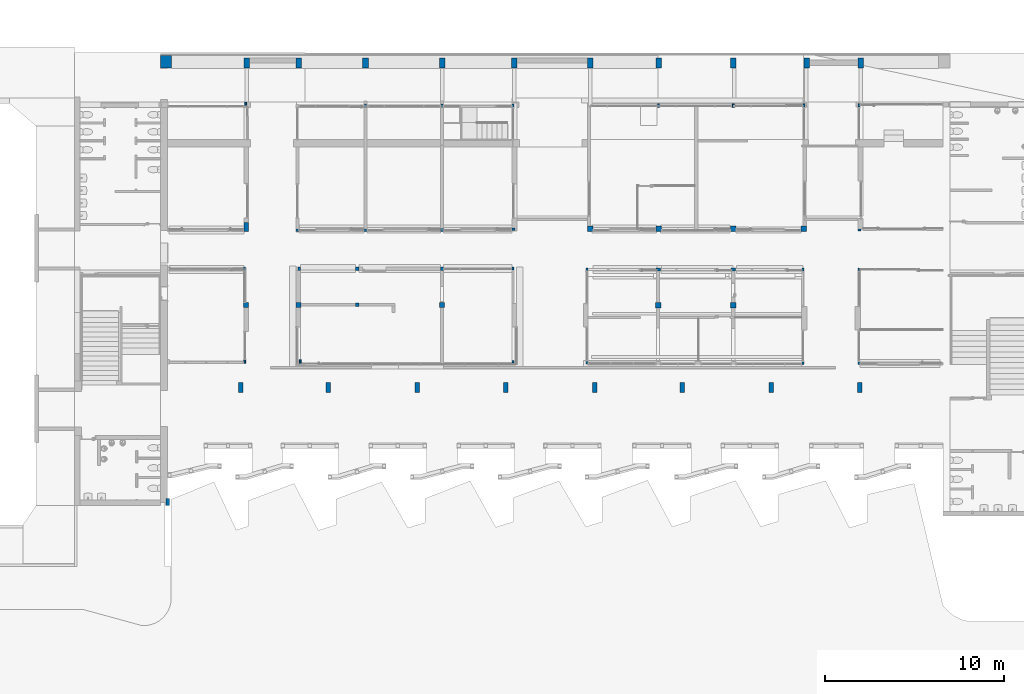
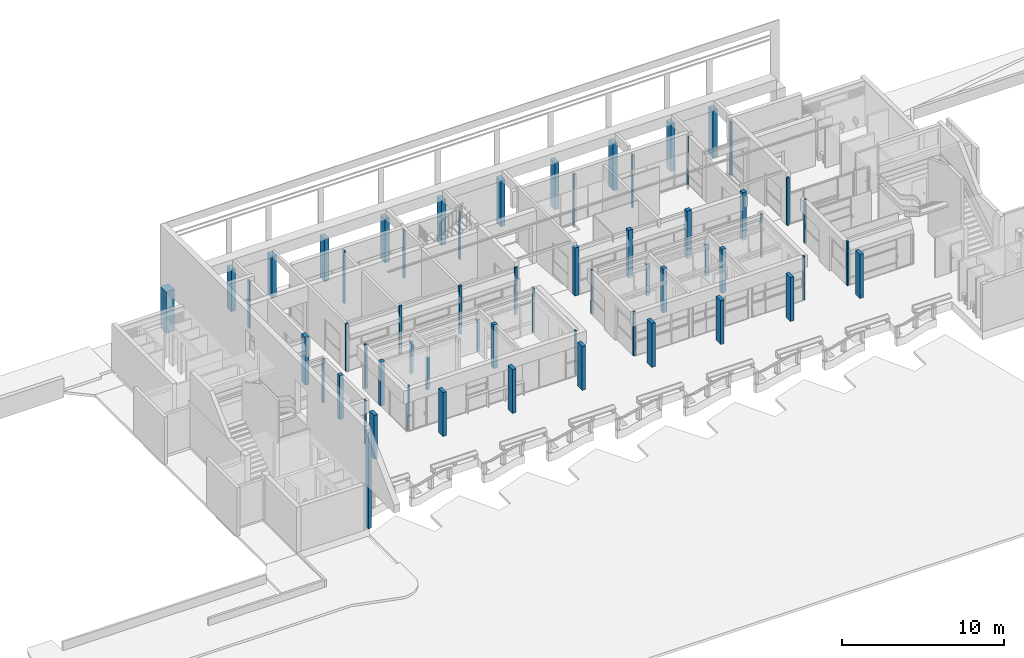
# One storey, part 1 of 117: 60 columns.
"""IFC4 building model written with IfcOpenShell, lengths in metres."""

from ifc_helpers import new_model, entity, si_unit, converted_unit, derived_unit, direction, frame, origin, place, context, subcontext, project, spatial, indexed_curve, outline, extrude, source, transform, mapped, material, type_object, type_shapes, element, save


model = new_model("IFC4")

# Units and contexts
model_context = context("Model", 3, precision=1e-05, world=origin(), true_north=direction((6.123031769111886e-17, 1.0)))
body_context = subcontext(model_context, "Body", "Model", "MODEL_VIEW")
ifc_project = project(units=[si_unit("LENGTHUNIT", "METRE"), si_unit("AREAUNIT", "SQUARE_METRE"), si_unit("VOLUMEUNIT", "CUBIC_METRE"), converted_unit("PLANEANGLEUNIT", "DEGREE", entity("IfcRatioMeasure", 0.017453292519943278), si_unit("PLANEANGLEUNIT", "RADIAN"), dimensions=[0, 0, 0, 0, 0, 0, 0]), si_unit("MASSUNIT", "GRAM", prefix="KILO"), derived_unit("MASSDENSITYUNIT", [(si_unit("MASSUNIT", "GRAM", prefix="KILO"), 1), (si_unit("LENGTHUNIT", "METRE"), -3)]), derived_unit("MOMENTOFINERTIAUNIT", [(si_unit("LENGTHUNIT", "METRE"), 4)]), si_unit("TIMEUNIT", "SECOND"), si_unit("FREQUENCYUNIT", "HERTZ"), si_unit("THERMODYNAMICTEMPERATUREUNIT", "DEGREE_CELSIUS"), derived_unit("THERMALTRANSMITTANCEUNIT", [(si_unit("MASSUNIT", "GRAM", prefix="KILO"), 1), (si_unit("THERMODYNAMICTEMPERATUREUNIT", "KELVIN"), -1), (si_unit("TIMEUNIT", "SECOND"), -3)]), derived_unit("VOLUMETRICFLOWRATEUNIT", [(si_unit("LENGTHUNIT", "METRE"), 3), (si_unit("TIMEUNIT", "SECOND"), -1)]), derived_unit("MASSFLOWRATEUNIT", [(si_unit("MASSUNIT", "GRAM", prefix="KILO"), 1), (si_unit("TIMEUNIT", "SECOND"), -1)]), derived_unit("ROTATIONALFREQUENCYUNIT", [(si_unit("TIMEUNIT", "SECOND"), -1)]), si_unit("ELECTRICCURRENTUNIT", "AMPERE"), si_unit("ELECTRICVOLTAGEUNIT", "VOLT"), si_unit("POWERUNIT", "WATT"), si_unit("FORCEUNIT", "NEWTON", prefix="KILO"), si_unit("ILLUMINANCEUNIT", "LUX"), si_unit("LUMINOUSFLUXUNIT", "LUMEN"), si_unit("LUMINOUSINTENSITYUNIT", "CANDELA"), derived_unit("USERDEFINED", [(si_unit("MASSUNIT", "GRAM", prefix="KILO"), -1), (si_unit("LENGTHUNIT", "METRE"), -2), (si_unit("TIMEUNIT", "SECOND"), 3), (si_unit("LUMINOUSFLUXUNIT", "LUMEN"), 1)]), derived_unit("SOUNDPOWERUNIT", [(si_unit("MASSUNIT", "GRAM", prefix="KILO"), 1), (si_unit("LENGTHUNIT", "METRE"), 2), (si_unit("TIMEUNIT", "SECOND"), -3)]), derived_unit("SOUNDPRESSUREUNIT", [(si_unit("MASSUNIT", "GRAM", prefix="KILO"), 1), (si_unit("LENGTHUNIT", "METRE"), -1), (si_unit("TIMEUNIT", "SECOND"), -2)]), derived_unit("LINEARVELOCITYUNIT", [(si_unit("LENGTHUNIT", "METRE"), 1), (si_unit("TIMEUNIT", "SECOND"), -1)]), si_unit("PRESSUREUNIT", "PASCAL"), derived_unit("USERDEFINED", [(si_unit("LENGTHUNIT", "METRE"), -2), (si_unit("MASSUNIT", "GRAM", prefix="KILO"), 1), (si_unit("TIMEUNIT", "SECOND"), -2)]), derived_unit("LINEARFORCEUNIT", [(si_unit("MASSUNIT", "GRAM", prefix="KILO"), 1), (si_unit("LENGTHUNIT", "METRE"), 1), (si_unit("TIMEUNIT", "SECOND"), -2), (si_unit("LENGTHUNIT", "METRE"), -1)]), derived_unit("PLANARFORCEUNIT", [(si_unit("MASSUNIT", "GRAM", prefix="KILO"), 1), (si_unit("LENGTHUNIT", "METRE"), 1), (si_unit("TIMEUNIT", "SECOND"), -2), (si_unit("LENGTHUNIT", "METRE"), -2)])], contexts=[model_context])

# Site, building, storey
site_placement = place(None, origin())
site = spatial("IfcSite", under=ifc_project, at=site_placement, Name="Superficie", CompositionType="ELEMENT")
building_placement = place(site_placement, origin())
building = spatial("IfcBuilding", under=site, at=building_placement, CompositionType="ELEMENT")
storey_placement = place(building_placement, origin())
storey = spatial("IfcBuildingStorey", under=building, at=storey_placement, Name="Nivel 0", CompositionType="ELEMENT", Elevation=0.0)

# Columns
ifc_material = material(Name="<Unnamed>")
column_type_1 = type_object("IfcColumnType", Name="Pilar rectangular hormigón:250 x 560 mm 2", PredefinedType="COLUMN", material=ifc_material)
shared_shape_1 = source(origin(), body_context, "Body", "SweptSolid", [
    extrude(outline(indexed_curve([(-0.27999999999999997, -0.12499999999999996), (0.27999999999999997, -0.12499999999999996), (0.27999999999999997, 0.12499999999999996), (-0.27999999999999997, 0.12499999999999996), (-0.27999999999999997, -0.12499999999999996)], self_intersect=False)), frame((0.0, 0.0, 0.0), z_axis=(0.0, 0.0, 1.0), x_axis=(0.0, -1.0, 0.0)), (0.0, 0.0, 1.0), 3.3),
])
type_shapes(column_type_1, [shared_shape_1])
for number, where in (
    (1, (15.961799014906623, -3.0536067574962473, 0.0)),
    (2, (11.011799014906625, -3.053606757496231, 0.0)),
    (3, (6.061799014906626, -3.053606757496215, 0.0)),
    (4, (1.1617990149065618, -3.053606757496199, 0.0)),
    (5, (-3.788200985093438, -3.0536067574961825, 0.0)),
    (6, (-8.738200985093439, -3.0536067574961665, 0.0)),
    (7, (-13.688200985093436, -3.053606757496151, 0.0)),
    (8, (-18.578200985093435, -3.0536067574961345, 0.0)),
):
    element("IfcColumn", number, at=place(storey_placement, frame(where)), inside=storey, type_object=column_type_1, material=ifc_material, Name="Pilar rectangular hormigón:250 x 560 mm 2", ObjectType="Pilar rectangular hormigón:250 x 560 mm 2", PredefinedType="COLUMN", context=body_context, shape_type="MappedRepresentation", body=[
        mapped(shared_shape_1, transform((0.0, 0.0, 0.0), scale=1.0)),
    ])
column_type_2 = type_object("IfcColumnType", Name="Pilar rectangular hormigón:200 x 370 mm 3", PredefinedType="COLUMN", material=ifc_material)
shared_shape_2 = source(origin(), body_context, "Body", "SweptSolid", [
    extrude(outline(indexed_curve([(-0.18500000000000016, -0.11000000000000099), (0.18500000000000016, -0.11000000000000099), (0.18500000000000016, 0.11000000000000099), (-0.18500000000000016, 0.11000000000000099), (-0.18500000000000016, -0.11000000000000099)], self_intersect=False)), frame((-22.643200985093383, -9.439170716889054, 0.0), z_axis=(0.0, 0.0, 1.0), x_axis=(0.0, -1.0, 0.0)), (0.0, 0.0, 1.0), 7.25),
])
type_shapes(column_type_2, [shared_shape_2])
column_1_placement = place(storey_placement, origin())
element("IfcColumn", 9, at=column_1_placement, inside=storey, type_object=column_type_2, material=ifc_material, Name="Pilar rectangular hormigón:200 x 370 mm 3", ObjectType="Pilar rectangular hormigón:200 x 370 mm 3", PredefinedType="COLUMN", context=body_context, shape_type="MappedRepresentation", body=[
    mapped(shared_shape_2, transform((0.0, 0.0, 0.0), scale=1.0)),
])
column_type_3 = type_object("IfcColumnType", Name="Pilar rectangular hormigón:300 x 300 mm", PredefinedType="COLUMN", material=ifc_material)
shared_shape_3 = source(origin(), body_context, "Body", "SweptSolid", [
    extrude(outline(indexed_curve([(-0.14999999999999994, -0.15), (0.14999999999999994, -0.15), (0.14999999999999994, 0.15), (-0.14999999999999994, 0.15), (-0.14999999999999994, -0.15)], self_intersect=False)), frame((0.0, 0.0, 0.0), z_axis=(0.0, 0.0, 1.0), x_axis=(0.0, -1.0, 0.0)), (0.0, 0.0, 1.0), 3.3),
])
type_shapes(column_type_3, [shared_shape_3])
for number, where in (
    (10, (8.901799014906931, 1.535829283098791, 0.0)),
    (11, (4.706799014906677, 1.5358292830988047, 0.0)),
):
    element("IfcColumn", number, at=place(storey_placement, frame(where)), inside=storey, type_object=column_type_3, material=ifc_material, Name="Pilar rectangular hormigón:300 x 300 mm", ObjectType="Pilar rectangular hormigón:300 x 300 mm", PredefinedType="COLUMN", context=body_context, shape_type="MappedRepresentation", body=[
        mapped(shared_shape_3, transform((0.0, 0.0, 0.0), scale=1.0)),
    ])
column_type_4 = type_object("IfcColumnType", Name="Pilar rectangular hormigón:280 x 280 mm 2", PredefinedType="COLUMN", material=ifc_material)
shared_shape_4 = source(origin(), body_context, "Body", "SweptSolid", [
    extrude(outline(indexed_curve([(-0.13999999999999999, -0.13999999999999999), (0.13999999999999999, -0.13999999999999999), (0.13999999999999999, 0.13999999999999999), (-0.13999999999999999, 0.13999999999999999), (-0.13999999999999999, -0.13999999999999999)], self_intersect=False)), frame((0.0, 0.0, 0.0), z_axis=(0.0, 0.0, 1.0), x_axis=(0.0, -1.0, 0.0)), (0.0, 0.0, 1.0), 3.3),
])
type_shapes(column_type_4, [shared_shape_4])
for number, where in (
    (12, (-7.3432009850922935, 1.5458292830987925, 0.0)),
    (13, (-15.358200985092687, 1.5458292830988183, 0.0)),
    (14, (-18.28320098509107, 1.5458292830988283, 0.0)),
):
    element("IfcColumn", number, at=place(storey_placement, frame(where)), inside=storey, type_object=column_type_4, material=ifc_material, Name="Pilar rectangular hormigón:280 x 280 mm 2", ObjectType="Pilar rectangular hormigón:280 x 280 mm 2", PredefinedType="COLUMN", context=body_context, shape_type="MappedRepresentation", body=[
        mapped(shared_shape_4, transform((0.0, 0.0, 0.0), scale=1.0)),
    ])
column_type_5 = type_object("IfcColumnType", Name="Pilar rectangular hormigón:100 x 180 mm 2", PredefinedType="COLUMN", material=ifc_material)
shared_shape_5 = source(origin(), body_context, "Body", "SweptSolid", [
    extrude(outline(indexed_curve([(-0.09, -0.04999999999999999), (0.09, -0.04999999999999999), (0.09, 0.04999999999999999), (-0.09, 0.04999999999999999), (-0.09, -0.04999999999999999)], self_intersect=False)), frame((0.0, 0.0, 0.0), z_axis=(0.0, 0.0, 1.0), x_axis=(0.0, -1.0, 0.0)), (0.0, 0.0, 1.0), 3.3),
])
type_shapes(column_type_5, [shared_shape_5])
for number, where in (
    (15, (-15.248200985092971, -1.6041707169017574, 0.0)),
    (16, (-18.343200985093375, -1.6041707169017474, 0.0)),
):
    element("IfcColumn", number, at=place(storey_placement, frame(where)), inside=storey, type_object=column_type_5, material=ifc_material, Name="Pilar rectangular hormigón:100 x 180 mm 2", ObjectType="Pilar rectangular hormigón:100 x 180 mm 2", PredefinedType="COLUMN", context=body_context, shape_type="MappedRepresentation", body=[
        mapped(shared_shape_5, transform((0.0, 0.0, 0.0), scale=1.0)),
    ])
column_type_6 = type_object("IfcColumnType", Name="Pilar rectangular hormigón:120 x 180 mm 3", PredefinedType="COLUMN", material=ifc_material)
shared_shape_6 = source(origin(), body_context, "Body", "SweptSolid", [
    extrude(outline(indexed_curve([(-0.09, -0.059999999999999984), (0.09, -0.059999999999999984), (0.09, 0.059999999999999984), (-0.09, 0.059999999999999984), (-0.09, -0.059999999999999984)], self_intersect=False)), frame((0.0, 0.0, 0.0), z_axis=(0.0, 0.0, 1.0), x_axis=(0.0, -1.0, 0.0)), (0.0, 0.0, 1.0), 3.3),
])
type_shapes(column_type_6, [shared_shape_6])
for number, where in (
    (17, (-15.308200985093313, 3.5758292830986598, 0.0)),
    (18, (-18.3532009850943, 3.575829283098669, 0.0)),
):
    element("IfcColumn", number, at=place(storey_placement, frame(where)), inside=storey, type_object=column_type_6, material=ifc_material, Name="Pilar rectangular hormigón:120 x 180 mm 3", ObjectType="Pilar rectangular hormigón:120 x 180 mm 3", PredefinedType="COLUMN", context=body_context, shape_type="MappedRepresentation", body=[
        mapped(shared_shape_6, transform((0.0, 0.0, 0.0), scale=1.0)),
    ])
column_type_7 = type_object("IfcColumnType", Name="Pilar rectangular hormigón:120 x 160 mm 4", PredefinedType="COLUMN", material=ifc_material)
shared_shape_7 = source(origin(), body_context, "Body", "SweptSolid", [
    extrude(outline(indexed_curve([(-0.08, -0.059999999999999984), (0.08, -0.059999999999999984), (0.08, 0.059999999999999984), (-0.08, 0.059999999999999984), (-0.08, -0.059999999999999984)], self_intersect=False)), frame((0.0, 0.0, 0.0), z_axis=(0.0, 0.0, 1.0), x_axis=(0.0, -1.0, 0.0)), (0.0, 0.0, 1.0), 3.3),
])
type_shapes(column_type_7, [shared_shape_7])
for number, where in (
    (19, (-3.393200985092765, 3.585829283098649, 0.0)),
    (20, (0.7317990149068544, 3.525713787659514, 0.0)),
    (21, (12.781799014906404, 3.525713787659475, 0.0)),
    (22, (12.781799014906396, -1.6941707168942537, 0.0)),
    (23, (0.7317990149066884, -1.6541707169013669, 0.0)),
    (24, (-3.3932009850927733, -1.6141707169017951, 0.0)),
    (25, (15.906799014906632, 3.525713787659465, 0.0)),
    (26, (15.906799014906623, -1.6941707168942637, 0.0)),
):
    element("IfcColumn", number, at=place(storey_placement, frame(where)), inside=storey, type_object=column_type_7, material=ifc_material, Name="Pilar rectangular hormigón:120 x 160 mm 4", ObjectType="Pilar rectangular hormigón:120 x 160 mm 4", PredefinedType="COLUMN", context=body_context, shape_type="MappedRepresentation", body=[
        mapped(shared_shape_7, transform((0.0, 0.0, 0.0), scale=1.0)),
    ])
column_type_8 = type_object("IfcColumnType", Name="Pilar rectangular hormigón:180 x 180 mm 3", PredefinedType="COLUMN", material=ifc_material)
shared_shape_8 = source(origin(), body_context, "Body", "SweptSolid", [
    extrude(outline(indexed_curve([(-0.09, -0.09), (0.09, -0.09), (0.09, 0.09), (-0.09, 0.09), (-0.09, -0.09)], self_intersect=False)), frame((0.0, 0.0, 0.0), z_axis=(0.0, 0.0, 1.0), x_axis=(0.0, -1.0, 0.0)), (0.0, 0.0, 1.0), 2.3999999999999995),
])
type_shapes(column_type_8, [shared_shape_8])
for number, where in (
    (27, (-7.3432009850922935, 3.575829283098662, 0.0)),
    (28, (-12.072403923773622, 3.575829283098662, 0.0)),
    (29, (-12.072403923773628, 1.5608292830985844, 0.0)),
):
    element("IfcColumn", number, at=place(storey_placement, frame(where)), inside=storey, type_object=column_type_8, material=ifc_material, Name="Pilar rectangular hormigón:180 x 180 mm 3", ObjectType="Pilar rectangular hormigón:180 x 180 mm 3", PredefinedType="COLUMN", context=body_context, shape_type="MappedRepresentation", body=[
        mapped(shared_shape_8, transform((0.0, 0.0, 0.0), scale=1.0)),
    ])
column_type_9 = type_object("IfcColumnType", Name="Pilar rectangular hormigón:160 x 250 mm 4", PredefinedType="COLUMN", material=ifc_material)
shared_shape_9 = source(origin(), body_context, "Body", "SweptSolid", [
    extrude(outline(indexed_curve([(-0.08, -0.12499999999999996), (0.08, -0.12499999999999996), (0.08, 0.12499999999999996), (-0.08, 0.12499999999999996), (-0.08, -0.12499999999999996)], self_intersect=False)), frame((0.0, 0.0, 0.0), z_axis=(0.0, 0.0, 1.0), x_axis=(0.0, -1.0, 0.0)), (0.0, 0.0, 1.0), 2.3999999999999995),
])
type_shapes(column_type_9, [shared_shape_9])
for number, where in (
    (30, (4.706799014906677, 3.5257137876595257, 0.0)),
    (31, (8.901799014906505, 3.525713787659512, 0.0)),
):
    element("IfcColumn", number, at=place(storey_placement, frame(where)), inside=storey, type_object=column_type_9, material=ifc_material, Name="Pilar rectangular hormigón:160 x 250 mm 4", ObjectType="Pilar rectangular hormigón:160 x 250 mm 4", PredefinedType="COLUMN", context=body_context, shape_type="MappedRepresentation", body=[
        mapped(shared_shape_9, transform((0.0, 0.0, 0.0), scale=1.0)),
    ])
column_type_10 = type_object("IfcColumnType", Name="Pilar rectangular hormigón:180 x 180 mm 3", PredefinedType="COLUMN", material=ifc_material)
shared_shape_10 = source(origin(), body_context, "Body", "SweptSolid", [
    extrude(outline(indexed_curve([(-0.09, -0.09), (0.09, -0.09), (0.09, 0.09), (-0.09, 0.09), (-0.09, -0.09)], self_intersect=False)), frame((0.0, 0.0, 0.0), z_axis=(0.0, 0.0, 1.0), x_axis=(0.0, -1.0, 0.0)), (0.0, 0.0, 1.0), 3.5999999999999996),
])
type_shapes(column_type_10, [shared_shape_10])
column_2_placement = place(storey_placement, frame((-7.343200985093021, 5.743063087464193, 0.0)))
element("IfcColumn", 32, at=column_2_placement, inside=storey, type_object=column_type_10, material=ifc_material, Name="Pilar rectangular hormigón:180 x 180 mm 3", ObjectType="Pilar rectangular hormigón:180 x 180 mm 3", PredefinedType="COLUMN", context=body_context, shape_type="MappedRepresentation", body=[
    mapped(shared_shape_10, transform((0.0, 0.0, 0.0), scale=1.0)),
])
column_type_11 = type_object("IfcColumnType", Name="Pilar rectangular hormigón:120 x 180 mm 3", PredefinedType="COLUMN", material=ifc_material)
shared_shape_11 = source(origin(), body_context, "Body", "SweptSolid", [
    extrude(outline(indexed_curve([(-0.09, -0.059999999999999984), (0.09, -0.059999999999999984), (0.09, 0.059999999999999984), (-0.09, 0.059999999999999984), (-0.09, -0.059999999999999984)], self_intersect=False)), frame((0.0, 0.0, 0.0), z_axis=(0.0, 0.0, 1.0), x_axis=(0.0, -1.0, 0.0)), (0.0, 0.0, 1.0), 3.5999999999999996),
])
type_shapes(column_type_11, [shared_shape_11])
for number, where, z_axis, x_axis in (
    (33, (-3.363200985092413, 5.775829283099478, 0.0), (0.0, 0.0, 1.0), (0.0, 1.0, 0.0)),
    (34, (-11.613200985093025, 5.715829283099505, 0.0), (0.0, 0.0, 1.0), (0.0, 1.0, 0.0)),
    (35, (-15.413200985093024, 5.715829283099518, 0.0), (0.0, 0.0, 1.0), (0.0, 1.0, 0.0)),
    (36, (15.936799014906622, 5.726739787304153, 0.0), (0.0, 0.0, 1.0), (0.0, 1.0, 0.0)),
):
    element("IfcColumn", number, at=place(storey_placement, frame(where, z_axis=z_axis, x_axis=x_axis)), inside=storey, type_object=column_type_11, material=ifc_material, Name="Pilar rectangular hormigón:120 x 180 mm 3", ObjectType="Pilar rectangular hormigón:120 x 180 mm 3", PredefinedType="COLUMN", context=body_context, shape_type="MappedRepresentation", body=[
        mapped(shared_shape_11, transform((0.0, 0.0, 0.0), scale=1.0)),
    ])
column_type_12 = type_object("IfcColumnType", Name="Pilar rectangular hormigón:250 x 500 mm 4", PredefinedType="COLUMN", material=ifc_material)
shared_shape_12 = source(origin(), body_context, "Body", "SweptSolid", [
    extrude(outline(indexed_curve([(-0.24999999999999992, -0.12499999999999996), (0.24999999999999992, -0.12499999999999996), (0.24999999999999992, 0.12499999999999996), (-0.24999999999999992, 0.12499999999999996), (-0.24999999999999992, -0.12499999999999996)], self_intersect=False)), frame((0.0, 0.0, 0.0), z_axis=(0.0, 0.0, 1.0), x_axis=(0.0, -1.0, 0.0)), (0.0, 0.0, 1.0), 3.5999999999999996),
])
type_shapes(column_type_12, [shared_shape_12])
column_3_placement = place(storey_placement, frame((-18.268200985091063, 5.9058292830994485, 0.0)))
element("IfcColumn", 37, at=column_3_placement, inside=storey, type_object=column_type_12, material=ifc_material, Name="Pilar rectangular hormigón:250 x 500 mm 4", ObjectType="Pilar rectangular hormigón:250 x 500 mm 4", PredefinedType="COLUMN", context=body_context, shape_type="MappedRepresentation", body=[
    mapped(shared_shape_12, transform((0.0, 0.0, 0.0), scale=1.0)),
])
column_type_13 = type_object("IfcColumnType", Name="Pilar rectangular hormigón:300 x 300 mm", PredefinedType="COLUMN", material=ifc_material)
shared_shape_13 = source(origin(), body_context, "Body", "SweptSolid", [
    extrude(outline(indexed_curve([(-0.14999999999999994, -0.15), (0.14999999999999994, -0.15), (0.14999999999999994, 0.15), (-0.14999999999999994, 0.15), (-0.14999999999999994, -0.15)], self_intersect=False)), frame((0.0, 0.0, 0.0), z_axis=(0.0, 0.0, 1.0), x_axis=(0.0, -1.0, 0.0)), (0.0, 0.0, 1.0), 3.5999999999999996),
])
type_shapes(column_type_13, [shared_shape_13])
for number, where in (
    (38, (0.9115520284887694, 5.806739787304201, 0.0)),
    (39, (4.731552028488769, 5.806739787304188, 0.0)),
    (40, (8.891552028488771, 5.806739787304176, 0.0)),
    (41, (12.821799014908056, 5.806739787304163, 0.0)),
):
    element("IfcColumn", number, at=place(storey_placement, frame(where)), inside=storey, type_object=column_type_13, material=ifc_material, Name="Pilar rectangular hormigón:300 x 300 mm", ObjectType="Pilar rectangular hormigón:300 x 300 mm", PredefinedType="COLUMN", context=body_context, shape_type="MappedRepresentation", body=[
        mapped(shared_shape_13, transform((0.0, 0.0, 0.0), scale=1.0)),
    ])
column_type_14 = type_object("IfcColumnType", Name="Pilar rectangular hormigón:100 x 200 mm 3", PredefinedType="COLUMN", material=ifc_material)
shared_shape_14 = source(origin(), body_context, "Body", "SweptSolid", [
    extrude(outline(indexed_curve([(-0.09999999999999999, -0.04999999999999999), (0.09999999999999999, -0.04999999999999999), (0.09999999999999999, 0.04999999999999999), (-0.09999999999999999, 0.04999999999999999), (-0.09999999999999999, -0.04999999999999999)], self_intersect=False)), frame((0.0, 0.0, 0.0), z_axis=(0.0, 0.0, 1.0), x_axis=(0.0, -1.0, 0.0)), (0.0, 0.0, 1.0), 3.5999999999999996),
])
type_shapes(column_type_14, [shared_shape_14])
column_4_placement = place(storey_placement, frame((-18.298200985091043, 12.765458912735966, 0.0)))
element("IfcColumn", 42, at=column_4_placement, inside=storey, type_object=column_type_14, material=ifc_material, Name="Pilar rectangular hormigón:100 x 200 mm 3", ObjectType="Pilar rectangular hormigón:100 x 200 mm 3", PredefinedType="COLUMN", context=body_context, shape_type="MappedRepresentation", body=[
    mapped(shared_shape_14, transform((0.0, 0.0, 0.0), scale=1.0)),
])
column_type_15 = type_object("IfcColumnType", Name="Pilar rectangular hormigón:100 x 180 mm 2", PredefinedType="COLUMN", material=ifc_material)
shared_shape_15 = source(origin(), body_context, "Body", "SweptSolid", [
    extrude(outline(indexed_curve([(-0.09, -0.04999999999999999), (0.09, -0.04999999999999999), (0.09, 0.04999999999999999), (-0.09, 0.04999999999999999), (-0.09, -0.04999999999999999)], self_intersect=False)), frame((0.0, 0.0, 0.0), z_axis=(0.0, 0.0, 1.0), x_axis=(0.0, -1.0, 0.0)), (0.0, 0.0, 1.0), 3.5999999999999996),
])
type_shapes(column_type_15, [shared_shape_15])
for number, where in (
    (43, (-7.34320098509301, 12.660829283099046, 0.0)),
    (44, (-3.393200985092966, 12.660829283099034, 0.0)),
):
    element("IfcColumn", number, at=place(storey_placement, frame(where)), inside=storey, type_object=column_type_15, material=ifc_material, Name="Pilar rectangular hormigón:100 x 180 mm 2", ObjectType="Pilar rectangular hormigón:100 x 180 mm 2", PredefinedType="COLUMN", context=body_context, shape_type="MappedRepresentation", body=[
        mapped(shared_shape_15, transform((0.0, 0.0, 0.0), scale=1.0)),
    ])
column_type_16 = type_object("IfcColumnType", Name="Pilar rectangular hormigón:100 x 180 mm 2", PredefinedType="COLUMN", material=ifc_material)
shared_shape_16 = source(origin(), body_context, "Body", "SweptSolid", [
    extrude(outline(indexed_curve([(-0.08999999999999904, -0.04999999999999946), (0.08999999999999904, -0.04999999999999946), (0.08999999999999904, 0.04999999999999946), (-0.08999999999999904, 0.04999999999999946), (-0.08999999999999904, -0.04999999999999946)], self_intersect=False)), frame((-11.613200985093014, 12.66082928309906, -0.4), z_axis=(0.0, 0.0, 1.0), x_axis=(0.0, -1.0, 0.0)), (0.0, 0.0, 1.0), 3.9999999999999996),
])
type_shapes(column_type_16, [shared_shape_16])
column_5_placement = place(storey_placement, origin())
element("IfcColumn", 45, at=column_5_placement, inside=storey, type_object=column_type_16, material=ifc_material, Name="Pilar rectangular hormigón:100 x 180 mm 2", ObjectType="Pilar rectangular hormigón:100 x 180 mm 2", PredefinedType="COLUMN", context=body_context, shape_type="MappedRepresentation", body=[
    mapped(shared_shape_16, transform((0.0, 0.0, 0.0), scale=1.0)),
])
column_type_17 = type_object("IfcColumnType", Name="Pilar rectangular hormigón:100 x 180 mm 2", PredefinedType="COLUMN", material=ifc_material)
shared_shape_17 = source(origin(), body_context, "Body", "SweptSolid", [
    extrude(outline(indexed_curve([(-0.09, -0.04999999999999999), (0.09, -0.04999999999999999), (0.09, 0.04999999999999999), (-0.09, 0.04999999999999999), (-0.09, -0.04999999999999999)], self_intersect=False)), frame((0.0, 0.0, -0.41999999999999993), z_axis=(0.0, 0.0, 1.0), x_axis=(0.0, -1.0, 0.0)), (0.0, 0.0, 1.0), 4.02),
])
type_shapes(column_type_17, [shared_shape_17])
column_6_placement = place(storey_placement, frame((8.891552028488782, 12.674548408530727, 0.0)))
element("IfcColumn", 46, at=column_6_placement, inside=storey, type_object=column_type_17, material=ifc_material, Name="Pilar rectangular hormigón:100 x 180 mm 2", ObjectType="Pilar rectangular hormigón:100 x 180 mm 2", PredefinedType="COLUMN", context=body_context, shape_type="MappedRepresentation", body=[
    mapped(shared_shape_17, transform((0.0, 0.0, 0.0), scale=1.0)),
])
column_type_18 = type_object("IfcColumnType", Name="Pilar rectangular hormigón:100 x 180 mm 2", PredefinedType="COLUMN", material=ifc_material)
shared_shape_18 = source(origin(), body_context, "Body", "SweptSolid", [
    extrude(outline(indexed_curve([(-0.09, -0.04999999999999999), (0.09, -0.04999999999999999), (0.09, 0.04999999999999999), (-0.09, 0.04999999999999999), (-0.09, -0.04999999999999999)], self_intersect=False)), frame((0.0, 0.0, -0.4), z_axis=(0.0, 0.0, 1.0), x_axis=(0.0, -1.0, 0.0)), (0.0, 0.0, 1.0), 3.9999999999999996),
])
type_shapes(column_type_18, [shared_shape_18])
column_7_placement = place(storey_placement, frame((4.73155202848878, 12.674548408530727, 0.0)))
element("IfcColumn", 47, at=column_7_placement, inside=storey, type_object=column_type_18, material=ifc_material, Name="Pilar rectangular hormigón:100 x 180 mm 2", ObjectType="Pilar rectangular hormigón:100 x 180 mm 2", PredefinedType="COLUMN", context=body_context, shape_type="MappedRepresentation", body=[
    mapped(shared_shape_18, transform((0.0, 0.0, 0.0), scale=1.0)),
])
column_type_19 = type_object("IfcColumnType", Name="Pilar rectangular hormigón:100 x 180 mm 2", PredefinedType="COLUMN", material=ifc_material)
shared_shape_19 = source(origin(), body_context, "Body", "SweptSolid", [
    extrude(outline(indexed_curve([(-0.08999999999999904, -0.04999999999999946), (0.08999999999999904, -0.04999999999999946), (0.08999999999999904, 0.04999999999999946), (-0.08999999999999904, 0.04999999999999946), (-0.08999999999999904, -0.04999999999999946)], self_intersect=False)), frame((12.840568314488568, 12.674548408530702, -0.41566592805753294), z_axis=(0.0, 0.0, 1.0), x_axis=(0.0, -1.0, 0.0)), (0.0, 0.0, 1.0), 4.015665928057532),
])
type_shapes(column_type_19, [shared_shape_19])
column_8_placement = place(storey_placement, origin())
element("IfcColumn", 48, at=column_8_placement, inside=storey, type_object=column_type_19, material=ifc_material, Name="Pilar rectangular hormigón:100 x 180 mm 2", ObjectType="Pilar rectangular hormigón:100 x 180 mm 2", PredefinedType="COLUMN", context=body_context, shape_type="MappedRepresentation", body=[
    mapped(shared_shape_19, transform((0.0, 0.0, 0.0), scale=1.0)),
])
column_type_20 = type_object("IfcColumnType", Name="Pilar rectangular hormigón:100 x 180 mm 2", PredefinedType="COLUMN", material=ifc_material)
shared_shape_20 = source(origin(), body_context, "Body", "SweptSolid", [
    extrude(outline(indexed_curve([(-0.09, -0.04999999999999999), (0.09, -0.04999999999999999), (0.09, 0.04999999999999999), (-0.09, 0.04999999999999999), (-0.09, -0.04999999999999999)], self_intersect=False)), frame((0.0, 0.0, -0.5), z_axis=(0.0, 0.0, 1.0), x_axis=(0.0, -1.0, 0.0)), (0.0, 0.0, 1.0), 4.1),
])
type_shapes(column_type_20, [shared_shape_20])
column_9_placement = place(storey_placement, frame((15.90600195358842, 12.674548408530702, 0.0)))
element("IfcColumn", 49, at=column_9_placement, inside=storey, type_object=column_type_20, material=ifc_material, Name="Pilar rectangular hormigón:100 x 180 mm 2", ObjectType="Pilar rectangular hormigón:100 x 180 mm 2", PredefinedType="COLUMN", context=body_context, shape_type="MappedRepresentation", body=[
    mapped(shared_shape_20, transform((0.0, 0.0, 0.0), scale=1.0)),
])
column_type_21 = type_object("IfcColumnType", Name="Pilar rectangular hormigón:600 x 700 mm 5", PredefinedType="COLUMN", material=ifc_material)
shared_shape_21 = source(origin(), body_context, "Body", "SweptSolid", [
    extrude(outline(indexed_curve([(-0.34999999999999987, -0.2999999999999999), (0.34999999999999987, -0.2999999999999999), (0.34999999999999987, 0.2999999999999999), (-0.34999999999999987, 0.2999999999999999), (-0.34999999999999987, -0.2999999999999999)], self_intersect=False)), frame((0.0, 0.0, 0.0), z_axis=(0.0, 0.0, 1.0), x_axis=(0.0, -1.0, 0.0)), (0.0, 0.0, 1.0), 3.13),
])
type_shapes(column_type_21, [shared_shape_21])
column_10_placement = place(storey_placement, frame((-22.743200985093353, 15.105829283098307, 0.0)))
element("IfcColumn", 50, at=column_10_placement, inside=storey, type_object=column_type_21, material=ifc_material, Name="Pilar rectangular hormigón:600 x 700 mm 5", ObjectType="Pilar rectangular hormigón:600 x 700 mm 5", PredefinedType="COLUMN", context=body_context, shape_type="MappedRepresentation", body=[
    mapped(shared_shape_21, transform((0.0, 0.0, 0.0), scale=1.0)),
])
column_type_22 = type_object("IfcColumnType", Name="Pilar rectangular hormigón:310 x 560 mm 2", PredefinedType="COLUMN", material=ifc_material)
shared_shape_22 = source(origin(), body_context, "Body", "SweptSolid", [
    extrude(outline(indexed_curve([(-0.27999999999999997, -0.15499999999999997), (0.27999999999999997, -0.15499999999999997), (0.27999999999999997, 0.15499999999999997), (-0.27999999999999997, 0.15499999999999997), (-0.27999999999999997, -0.15499999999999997)], self_intersect=False)), frame((0.0, 0.0, 0.0), z_axis=(0.0, 0.0, 1.0), x_axis=(0.0, -1.0, 0.0)), (0.0, 0.0, 1.0), 3.13),
])
type_shapes(column_type_22, [shared_shape_22])
for number, where in (
    (51, (-18.24820098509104, 15.055458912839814, 0.0)),
    (52, (-15.348200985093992, 15.055458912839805, 0.0)),
):
    element("IfcColumn", number, at=place(storey_placement, frame(where)), inside=storey, type_object=column_type_22, material=ifc_material, Name="Pilar rectangular hormigón:310 x 560 mm 2", ObjectType="Pilar rectangular hormigón:310 x 560 mm 2", PredefinedType="COLUMN", context=body_context, shape_type="MappedRepresentation", body=[
        mapped(shared_shape_22, transform((0.0, 0.0, 0.0), scale=1.0)),
    ])
column_type_23 = type_object("IfcColumnType", Name="Pilar rectangular hormigón:310 x 560 mm 2", PredefinedType="COLUMN", material=ifc_material)
shared_shape_23 = source(origin(), body_context, "Body", "SweptSolid", [
    extrude(outline(indexed_curve([(-0.27999999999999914, -0.15499999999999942), (0.27999999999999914, -0.15499999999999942), (0.27999999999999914, 0.15499999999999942), (-0.27999999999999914, 0.15499999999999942), (-0.27999999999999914, -0.15499999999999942)], self_intersect=False)), frame((-11.613200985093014, 15.055458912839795, -0.06553669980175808), z_axis=(0.0, 0.0, 1.0), x_axis=(0.0, -1.0, 0.0)), (0.0, 0.0, 1.0), 3.195536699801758),
])
type_shapes(column_type_23, [shared_shape_23])
column_11_placement = place(storey_placement, origin())
element("IfcColumn", 53, at=column_11_placement, inside=storey, type_object=column_type_23, material=ifc_material, Name="Pilar rectangular hormigón:310 x 560 mm 2", ObjectType="Pilar rectangular hormigón:310 x 560 mm 2", PredefinedType="COLUMN", context=body_context, shape_type="MappedRepresentation", body=[
    mapped(shared_shape_23, transform((0.0, 0.0, 0.0), scale=1.0)),
])
column_type_24 = type_object("IfcColumnType", Name="Pilar rectangular hormigón:310 x 560 mm 2", PredefinedType="COLUMN", material=ifc_material)
shared_shape_24 = source(origin(), body_context, "Body", "SweptSolid", [
    extrude(outline(indexed_curve([(-0.27999999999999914, -0.15499999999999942), (0.27999999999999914, -0.15499999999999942), (0.27999999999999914, 0.1550000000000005), (-0.27999999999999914, 0.1550000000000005), (-0.27999999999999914, -0.15499999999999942)], self_intersect=False)), frame((-7.327735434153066, 15.05545891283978, -0.15259542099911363), z_axis=(0.0, 0.0, 1.0), x_axis=(0.0, -1.0, 0.0)), (0.0, 0.0, 1.0), 3.2825954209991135),
])
type_shapes(column_type_24, [shared_shape_24])
column_12_placement = place(storey_placement, origin())
element("IfcColumn", 54, at=column_12_placement, inside=storey, type_object=column_type_24, material=ifc_material, Name="Pilar rectangular hormigón:310 x 560 mm 2", ObjectType="Pilar rectangular hormigón:310 x 560 mm 2", PredefinedType="COLUMN", context=body_context, shape_type="MappedRepresentation", body=[
    mapped(shared_shape_24, transform((0.0, 0.0, 0.0), scale=1.0)),
])
column_type_25 = type_object("IfcColumnType", Name="Pilar rectangular hormigón:310 x 560 mm 2", PredefinedType="COLUMN", material=ifc_material)
shared_shape_25 = source(origin(), body_context, "Body", "SweptSolid", [
    extrude(outline(indexed_curve([(-0.27999999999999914, -0.15499999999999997), (0.27999999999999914, -0.15499999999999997), (0.27999999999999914, 0.15499999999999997), (-0.27999999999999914, 0.15499999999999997), (-0.27999999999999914, -0.15499999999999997)], self_intersect=False)), frame((-3.3082009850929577, 15.055458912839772, -0.2342517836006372), z_axis=(0.0, 0.0, 1.0), x_axis=(0.0, -1.0, 0.0)), (0.0, 0.0, 1.0), 3.364251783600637),
])
type_shapes(column_type_25, [shared_shape_25])
column_13_placement = place(storey_placement, origin())
element("IfcColumn", 55, at=column_13_placement, inside=storey, type_object=column_type_25, material=ifc_material, Name="Pilar rectangular hormigón:310 x 560 mm 2", ObjectType="Pilar rectangular hormigón:310 x 560 mm 2", PredefinedType="COLUMN", context=body_context, shape_type="MappedRepresentation", body=[
    mapped(shared_shape_25, transform((0.0, 0.0, 0.0), scale=1.0)),
])
column_type_26 = type_object("IfcColumnType", Name="Pilar rectangular hormigón:310 x 560 mm 2", PredefinedType="COLUMN", material=ifc_material)
shared_shape_26 = source(origin(), body_context, "Body", "SweptSolid", [
    extrude(outline(indexed_curve([(-0.27999999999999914, -0.15499999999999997), (0.27999999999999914, -0.15499999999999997), (0.27999999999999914, 0.15499999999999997), (-0.27999999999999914, 0.15499999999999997), (-0.27999999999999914, -0.15499999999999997)], self_intersect=False)), frame((0.9165520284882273, 15.05545891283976, -0.32007713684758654), z_axis=(0.0, 0.0, 1.0), x_axis=(0.0, -1.0, 0.0)), (0.0, 0.0, 1.0), 3.4500771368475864),
])
type_shapes(column_type_26, [shared_shape_26])
column_14_placement = place(storey_placement, origin())
element("IfcColumn", 56, at=column_14_placement, inside=storey, type_object=column_type_26, material=ifc_material, Name="Pilar rectangular hormigón:310 x 560 mm 2", ObjectType="Pilar rectangular hormigón:310 x 560 mm 2", PredefinedType="COLUMN", context=body_context, shape_type="MappedRepresentation", body=[
    mapped(shared_shape_26, transform((0.0, 0.0, 0.0), scale=1.0)),
])
column_type_27 = type_object("IfcColumnType", Name="Pilar rectangular hormigón:310 x 560 mm 2", PredefinedType="COLUMN", material=ifc_material)
shared_shape_27 = source(origin(), body_context, "Body", "SweptSolid", [
    extrude(outline(indexed_curve([(-0.27999999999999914, -0.15499999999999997), (0.27999999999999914, -0.15499999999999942), (0.27999999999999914, 0.15499999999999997), (-0.27999999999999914, 0.15499999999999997), (-0.27999999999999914, -0.15499999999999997)], self_intersect=False)), frame((4.751799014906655, 15.055458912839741, -0.397989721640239), z_axis=(0.0, 0.0, 1.0), x_axis=(0.0, -1.0, 0.0)), (0.0, 0.0, 1.0), 3.527989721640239),
])
type_shapes(column_type_27, [shared_shape_27])
column_15_placement = place(storey_placement, origin())
element("IfcColumn", 57, at=column_15_placement, inside=storey, type_object=column_type_27, material=ifc_material, Name="Pilar rectangular hormigón:310 x 560 mm 2", ObjectType="Pilar rectangular hormigón:310 x 560 mm 2", PredefinedType="COLUMN", context=body_context, shape_type="MappedRepresentation", body=[
    mapped(shared_shape_27, transform((0.0, 0.0, 0.0), scale=1.0)),
])
column_type_28 = type_object("IfcColumnType", Name="Pilar rectangular hormigón:310 x 560 mm 2", PredefinedType="COLUMN", material=ifc_material)
shared_shape_28 = source(origin(), body_context, "Body", "SweptSolid", [
    extrude(outline(indexed_curve([(-0.27999999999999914, -0.1550000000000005), (0.27999999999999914, -0.1550000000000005), (0.27999999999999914, 0.15499999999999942), (-0.27999999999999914, 0.15499999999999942), (-0.27999999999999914, -0.1550000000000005)], self_intersect=False)), frame((8.891552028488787, 15.055458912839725, -0.4099661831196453), z_axis=(0.0, 0.0, 1.0), x_axis=(0.0, -1.0, 0.0)), (0.0, 0.0, 1.0), 3.5399661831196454),
])
type_shapes(column_type_28, [shared_shape_28])
column_16_placement = place(storey_placement, origin())
element("IfcColumn", 58, at=column_16_placement, inside=storey, type_object=column_type_28, material=ifc_material, Name="Pilar rectangular hormigón:310 x 560 mm 2", ObjectType="Pilar rectangular hormigón:310 x 560 mm 2", PredefinedType="COLUMN", context=body_context, shape_type="MappedRepresentation", body=[
    mapped(shared_shape_28, transform((0.0, 0.0, 0.0), scale=1.0)),
])
column_type_29 = type_object("IfcColumnType", Name="Pilar rectangular hormigón:310 x 560 mm 2", PredefinedType="COLUMN", material=ifc_material)
shared_shape_29 = source(origin(), body_context, "Body", "SweptSolid", [
    extrude(outline(indexed_curve([(-0.27999999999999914, -0.15499999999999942), (0.27999999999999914, -0.15499999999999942), (0.27999999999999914, 0.15499999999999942), (-0.27999999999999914, 0.15499999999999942), (-0.27999999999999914, -0.15499999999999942)], self_intersect=False)), frame((13.001799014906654, 15.055458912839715, -0.42032650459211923), z_axis=(0.0, 0.0, 1.0), x_axis=(0.0, -1.0, 0.0)), (0.0, 0.0, 1.0), 3.5503265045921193),
])
type_shapes(column_type_29, [shared_shape_29])
column_17_placement = place(storey_placement, origin())
element("IfcColumn", 59, at=column_17_placement, inside=storey, type_object=column_type_29, material=ifc_material, Name="Pilar rectangular hormigón:310 x 560 mm 2", ObjectType="Pilar rectangular hormigón:310 x 560 mm 2", PredefinedType="COLUMN", context=body_context, shape_type="MappedRepresentation", body=[
    mapped(shared_shape_29, transform((0.0, 0.0, 0.0), scale=1.0)),
])
column_type_30 = type_object("IfcColumnType", Name="Pilar rectangular hormigón:310 x 560 mm 2", PredefinedType="COLUMN", material=ifc_material)
shared_shape_30 = source(origin(), body_context, "Body", "SweptSolid", [
    extrude(outline(indexed_curve([(-0.27999999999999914, -0.15499999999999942), (0.27999999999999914, -0.15499999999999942), (0.27999999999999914, 0.15499999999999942), (-0.27999999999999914, 0.15499999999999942), (-0.27999999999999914, -0.15499999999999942)], self_intersect=False)), frame((16.001799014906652, 15.055458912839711, -0.44046065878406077), z_axis=(0.0, 0.0, 1.0), x_axis=(0.0, -1.0, 0.0)), (0.0, 0.0, 1.0), 3.570460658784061),
])
type_shapes(column_type_30, [shared_shape_30])
column_18_placement = place(storey_placement, origin())
element("IfcColumn", 60, at=column_18_placement, inside=storey, type_object=column_type_30, material=ifc_material, Name="Pilar rectangular hormigón:310 x 560 mm 2", ObjectType="Pilar rectangular hormigón:310 x 560 mm 2", PredefinedType="COLUMN", context=body_context, shape_type="MappedRepresentation", body=[
    mapped(shared_shape_30, transform((0.0, 0.0, 0.0), scale=1.0)),
])

save(model, "model.ifc")
